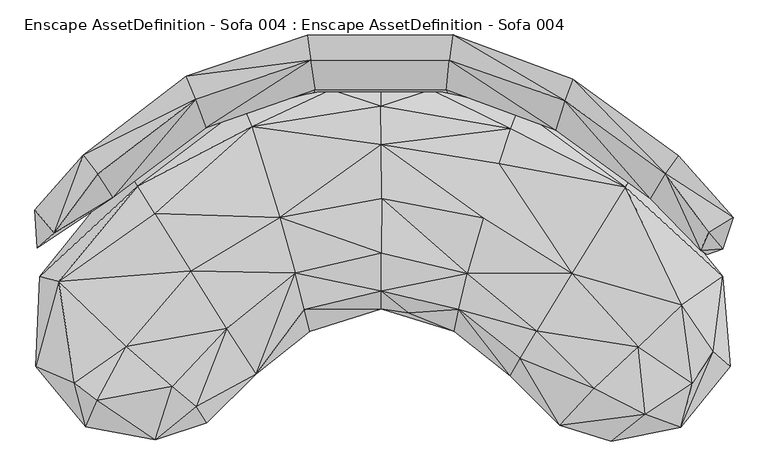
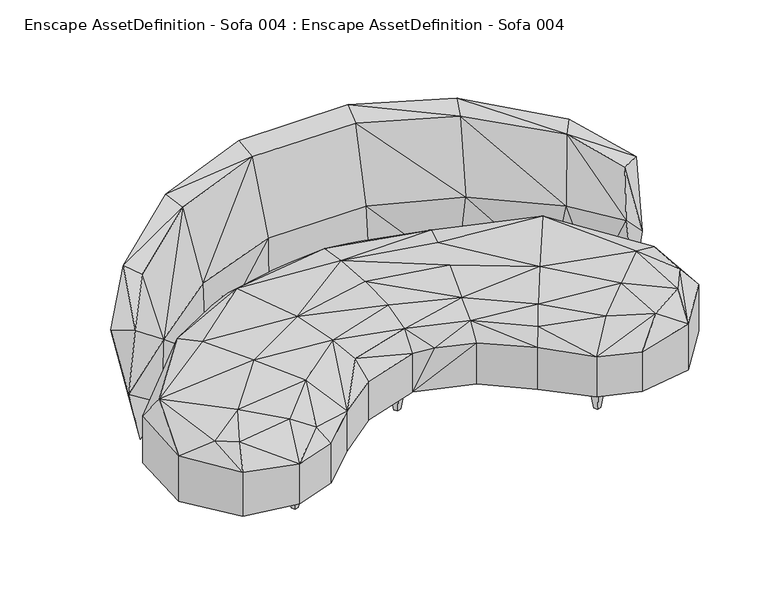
"""IFC4 building model written with IfcOpenShell, lengths in millimetres: geographic element geometry, Enscape AssetDefinition - Sofa 004 : Enscape AssetDefinition - Sofa 004."""

from ifc_helpers import new_model, si_unit, origin, place, context, project, spatial, triangles, source, transform, mapped, element, save


def enscape_assetdefinition_sofa_004_enscape_assetdefinition_8d7d073d(model_context):
    return source(origin(), model_context, "Body", "Tessellation", [
        triangles([(1386.6883232, -667.9079235, 179.7981641), (-968.3206913, 49.6201544, 524.8154222), (-1374.4681389, -667.2996758, 186.9336298), (-1358.715612, -309.2258926, 179.6881236), (-1011.790785, 120.3305912, 181.7218294), (-201.7897724, 432.7765998, 181.0505768), (197.3752344, 434.1540956, 180.9275647), (-1358.715612, -309.2258926, 445.0858775), (-1174.884173, -908.0008993, 427.4917843), (-1374.4681389, -667.2996758, 443.6573673), (-1221.1161621, -733.7436579, 513.9336737), (-1174.884173, -908.0008993, 178.2476229), (-1129.4363657, -803.1666006, 518.1661188), (-900.0071285, -960.2339029, 184.5077785), (-736.2554958, -826.6767935, 479.4837416), (-900.0071285, -960.2339029, 409.9507038), (-498.0091733, -698.1323141, 182.6401418), (-693.4716974, -892.4695072, 410.3598722), (-693.4716974, -892.4695072, 188.6932425), (-831.7365137, -747.3774187, 509.2631012), (-758.545269, -288.2366396, 536.5934824), (-1015.0870228, -587.8582675, 530.1942727), (-614.055324, -517.3989055, 511.3777977), (-284.6934148, -528.0915668, 395.7788218), (-498.0091733, -698.1323141, 407.1147577), (-343.0696117, -295.7142355, 507.5804641), (-284.6934148, -528.0915668, 180.314339), (-306.6360071, -440.7323642, 478.6304506), (0.4041397, -438.4535789, 398.1376167), (-0.2700934, -366.777794, 494.6650097), (109.3307993, -454.7412111, 400.0372828), (0.4041397, -438.4535789, 181.051576), (289.4010489, -527.9614875, 410.6699913), (289.4010489, -527.9614875, 179.2789734), (342.3633685, -297.2167783, 508.8268996), (307.341233, -441.2845834, 478.5634126), (511.6088519, -705.7059071, 415.2215667), (511.6088519, -705.7059071, 178.1826014), (914.7081934, -965.2216072, 183.8855782), (709.5142502, -901.9777931, 187.2017093), (1048.7976105, -858.6438103, 511.6429341), (709.5142502, -901.9777931, 410.2568261), (552.5120602, -636.9051647, 476.424735), (846.8147358, -755.1350847, 504.5434402), (914.7081934, -965.2216072, 407.2127895), (1190.7036289, -911.2409632, 177.0412103), (1236.0623428, -735.3591843, 512.2020933), (1190.7036289, -911.2409632, 434.4752243), (1320.6326168, -607.7011333, 513.7196242), (1021.360041, -590.7692453, 529.8101755), (617.254402, -527.6754584, 513.2884369), (1195.3912788, -423.9355697, 546.4419002), (1386.6883232, -667.9079235, 438.5896171), (1357.487344, -310.3312757, 186.9726535), (1357.487344, -310.3312757, 447.9798869), (1012.9681841, 116.6253123, 445.6560825), (1012.9681841, 116.6253123, 181.7688287), (544.0410293, 359.0731407, 183.3213684), (544.0410293, 359.0731407, 407.7449882), (197.3752344, 434.1540956, 426.7565457), (-2.1997604, 438.4585567, 416.3529656), (-201.7897724, 432.7765998, 429.2313583), (-2.1997604, 438.4585567, 178.782801), (-548.256506, 367.721123, 424.0506063), (-515.3121506, 286.1339155, 504.1992751), (-2.4308405, 367.0289051, 499.4436788), (969.6252628, 45.1175995, 537.4277701), (511.9029837, 278.1281542, 479.8939273), (466.2962108, 139.9223641, 508.7718884), (-0.8402905, 215.6345487, 525.4997191), (0.6152127, -0.1840636, 536.2283521), (404.9479932, -78.2820586, 535.2229992), (757.9160196, -297.8909922, 537.6668544), (-0.1840636, -215.9756797, 534.8378846), (-900.3103077, -60.3708699, 551.7447742), (-404.0486658, -74.6738168, 528.1605669), (-1283.7728027, -330.7753404, 527.5043933), (-548.256506, 367.721123, 177.9535275), (257.9271707, 434.0210732, 607.4609591), (267.0813176, 411.2341647, 175.2775825), (664.1136057, 300.33383, 174.4372995), (1038.2089399, 75.2630159, 174.9044585), (693.1255703, 272.462221, 602.9004453), (1069.5557911, 0.8452922, 586.3237318), (1173.4737213, -76.958602, 177.8865076), (588.2513394, 389.523644, 174.8464315), (225.4059181, 475.9004937, 175.1725562), (1038.9501738, 144.5729705, 172.5726604), (1076.1590218, 153.3920361, 320.7028447), (1237.6888424, -15.5813868, 355.6649549), (1269.2717983, -206.4383622, 560.55779), (1357.2841587, -200.9784847, 467.9317941), (1296.5002235, -223.3292098, 180.0032207), (1158.2513947, 181.6898183, 752.3420866), (1180.076952, 170.9590961, 933.7788317), (761.298226, 474.9261709, 1012.3930012), (1129.6634594, 100.2446533, 909.3403524), (1301.4427998, -136.0150263, 808.5345142), (1398.6044563, -76.2783655, 795.878092), (759.8826874, 467.3345558, 802.9305685), (269.6242401, 551.7657394, 999.2364641), (729.9553717, 389.2786008, 976.4986078), (284.3112978, 651.5762169, 1035.7210831), (-776.3044321, 487.2224407, 1006.0418627), (-294.3367397, 650.2527512, 1038.9611469), (320.4327667, 631.0991964, 813.1981831), (-326.5468921, 631.3642965, 817.2474998), (-252.5853274, 547.5103306, 327.9643564), (-638.7608654, 438.0334373, 322.7175837), (249.5242679, 548.7506982, 324.5312084), (-592.9020003, 394.7364799, 173.608026), (634.4603285, 430.3387762, 323.8999606), (-271.740935, 411.6092872, 177.8904862), (-229.8074481, 475.6063983, 178.14058), (-1039.9764919, 141.9850925, 174.4243097), (-1068.3243256, 3.52922, 582.1962948), (-668.1639399, 304.1661361, 171.5573154), (-1038.7810707, 72.649113, 173.2668949), (-1267.0469341, -128.31536, 170.8850817), (-1367.6758209, -196.5839673, 501.0942321), (-1075.6488058, 154.7134852, 324.6142339), (-1159.3598299, 180.0702587, 760.472913), (-1377.6313179, -46.0679275, 773.7765341), (-769.304932, 474.9231915, 801.1739897), (-1304.3689293, -118.7220411, 344.7251793), (-738.4972921, 396.3200315, 974.7239342), (-1185.7409231, 172.5296579, 937.7301893), (-1300.2835682, -137.0173724, 800.3986736), (-1128.4641867, 96.7524428, 912.6045427), (-281.564318, 550.8534405, 1002.9997519), (-696.7658278, 282.9768408, 599.891363), (-263.8121857, 433.715932, 610.3229937), (756.6646425, -735.952462, 182.524106), (797.3276402, -759.9657492, 0.0), (786.4979233, -741.2112253, 0.0), (803.087681, -727.2904181, 0.0), (786.9650459, -788.4345783, 182.524106), (843.911788, -767.7054657, 182.524106), (803.087681, -696.996991, 182.524106), (817.6766888, -752.5601692, 0.0), (1207.2603945, -372.4077192, 0.0), (1190.6706367, -386.3285628, 0.0), (1160.8372833, -381.0667474, 182.524106), (1191.1377594, -433.5488637, 182.524106), (1207.2603945, -342.1122574, 182.524106), (1248.0844288, -412.8227305, 182.524106), (1221.8483849, -397.6744546, 0.0), (1201.4993362, -405.083014, 0.0), (-46.4230476, -288.0955872, 182.524106), (-16.589735, -293.3544232, 0.0), (-5.7609912, -312.1108546, 0.0), (0.0, -249.1401343, 182.524106), (0.0, -279.4335796, 0.0), (40.8241115, -319.8515885, 182.524106), (-16.1225726, -340.577758, 182.524106), (14.5880426, -304.7033489, 0.0), (0.0, 353.4021569, 182.524106), (-16.589735, 309.1878862, 0.0), (-46.4230476, 314.449738, 182.524106), (40.8241115, 282.6937185, 182.524106), (-16.1225726, 261.9675672, 182.524106), (0.0, 323.1086935, 0.0), (14.5880426, 297.8389605, 0.0), (-5.7609912, 290.4343979, 0.0), (-819.675404, -741.2122427, 0.0), (-808.8485939, -759.9657492, 0.0), (-803.0856462, -727.2904181, 0.0), (-849.5106468, -735.952462, 182.524106), (-803.0856462, -696.996991, 182.524106), (-762.2615393, -767.7054657, 182.524106), (-788.4975832, -752.5601692, 0.0), (-819.2082087, -788.4345783, 182.524106), (-1207.2533455, -342.1122574, 182.5231068), (-1207.2533455, -372.4077192, 0.0), (-1213.0143311, -405.083014, 0.0), (-1192.6653551, -397.675472, 0.0), (-1223.8440479, -386.3285628, 0.0), (-1253.676384, -381.0667474, 182.5231068), (-1166.4302559, -412.8227305, 182.5231068), (-1223.3769253, -433.5488637, 182.5231068)], [[180, 175, 176], [176, 179, 180], [179, 176, 174], [180, 179, 173], [174, 173, 179], [173, 178, 180], [175, 180, 178], [177, 174, 176], [176, 175, 177], [178, 177, 175], [173, 174, 177], [177, 178, 173], [172, 166, 171], [171, 170, 172], [170, 171, 167], [172, 170, 169], [167, 169, 170], [169, 168, 172], [166, 172, 168], [165, 167, 171], [171, 166, 165], [168, 165, 166], [169, 167, 165], [165, 168, 169], [161, 164, 163], [163, 160, 161], [160, 163, 162], [161, 160, 157], [162, 157, 160], [157, 159, 161], [164, 161, 159], [158, 162, 163], [163, 164, 158], [159, 158, 164], [157, 162, 158], [158, 159, 157], [155, 151, 156], [156, 154, 155], [154, 156, 153], [155, 154, 152], [153, 152, 154], [152, 149, 155], [151, 155, 149], [150, 153, 156], [156, 151, 150], [149, 150, 151], [152, 153, 150], [150, 149, 152], [144, 148, 147], [147, 146, 144], [146, 147, 141], [144, 146, 145], [141, 145, 146], [145, 143, 144], [148, 144, 143], [142, 141, 147], [147, 148, 142], [143, 142, 148], [145, 141, 142], [142, 143, 145], [137, 134, 140], [140, 138, 137], [138, 140, 136], [137, 138, 139], [136, 139, 138], [139, 133, 137], [134, 137, 133], [135, 136, 140], [140, 134, 135], [133, 135, 134], [139, 136, 135], [135, 133, 139], [131, 132, 130], [116, 129, 128], [130, 126, 131], [126, 129, 116], [116, 131, 126], [104, 126, 130], [128, 129, 127], [127, 129, 126], [126, 104, 127], [127, 123, 128], [128, 123, 120], [128, 120, 116], [123, 125, 120], [124, 122, 104], [123, 127, 122], [104, 122, 127], [123, 122, 125], [109, 122, 124], [122, 121, 125], [122, 109, 121], [119, 125, 121], [120, 125, 119], [118, 116, 120], [120, 119, 118], [119, 115, 118], [115, 121, 109], [121, 115, 119], [117, 118, 115], [132, 131, 117], [116, 118, 117], [117, 131, 116], [117, 113, 132], [115, 111, 117], [113, 117, 111], [109, 111, 115], [111, 114, 113], [113, 114, 87], [87, 110, 112], [110, 87, 114], [100, 112, 110], [108, 114, 111], [114, 108, 110], [111, 109, 108], [104, 107, 124], [107, 108, 109], [109, 124, 107], [110, 106, 100], [106, 110, 108], [108, 107, 106], [130, 105, 104], [106, 107, 105], [104, 105, 107], [105, 130, 101], [101, 130, 132], [101, 103, 105], [105, 103, 106], [103, 100, 106], [103, 101, 102], [102, 96, 103], [96, 100, 103], [96, 102, 97], [97, 95, 96], [84, 97, 102], [97, 84, 91], [91, 98, 97], [93, 92, 91], [98, 91, 92], [92, 99, 98], [97, 98, 99], [99, 95, 97], [95, 94, 96], [99, 94, 95], [96, 94, 100], [112, 100, 94], [94, 89, 112], [90, 92, 93], [90, 89, 94], [99, 92, 90], [94, 99, 90], [85, 93, 91], [93, 85, 90], [85, 91, 84], [88, 89, 90], [90, 85, 88], [89, 88, 86], [112, 86, 87], [86, 112, 89], [85, 82, 88], [86, 88, 82], [84, 82, 85], [83, 102, 101], [102, 83, 84], [82, 84, 83], [82, 81, 86], [87, 86, 81], [83, 81, 82], [81, 80, 87], [87, 80, 113], [81, 83, 79], [101, 79, 83], [79, 80, 81], [132, 79, 101], [113, 80, 79], [79, 132, 113], [2, 65, 64], [2, 64, 78], [8, 77, 2], [77, 22, 21], [65, 2, 75], [75, 2, 77], [21, 75, 77], [75, 21, 76], [26, 76, 21], [76, 65, 75], [76, 26, 74], [74, 71, 76], [71, 74, 35], [35, 51, 73], [35, 72, 71], [73, 72, 35], [70, 71, 72], [76, 71, 70], [70, 65, 76], [69, 72, 73], [72, 69, 70], [73, 67, 69], [70, 69, 68], [67, 68, 69], [68, 66, 70], [70, 66, 65], [62, 64, 65], [65, 66, 62], [64, 62, 6], [6, 78, 64], [63, 6, 62], [62, 61, 63], [61, 62, 66], [66, 60, 61], [60, 66, 68], [68, 59, 60], [59, 68, 67], [60, 59, 58], [6, 63, 7], [61, 60, 7], [7, 63, 61], [58, 7, 60], [57, 58, 59], [7, 58, 57], [67, 56, 59], [59, 56, 57], [54, 57, 56], [57, 54, 1], [7, 57, 1], [55, 56, 67], [1, 54, 55], [56, 55, 54], [46, 1, 53], [55, 53, 1], [49, 53, 55], [49, 55, 52], [52, 55, 67], [52, 67, 73], [50, 73, 51], [73, 50, 52], [52, 47, 49], [47, 52, 50], [48, 53, 49], [49, 47, 48], [53, 48, 46], [1, 46, 39], [39, 46, 48], [40, 39, 45], [48, 45, 39], [45, 48, 41], [48, 47, 41], [41, 47, 50], [50, 44, 41], [51, 44, 50], [44, 51, 43], [42, 45, 41], [41, 44, 42], [42, 44, 43], [45, 42, 40], [39, 40, 38], [38, 40, 42], [1, 39, 38], [1, 38, 34], [43, 37, 42], [42, 37, 38], [34, 38, 37], [37, 43, 36], [51, 35, 36], [36, 43, 51], [36, 33, 37], [37, 33, 34], [32, 34, 33], [31, 33, 36], [33, 31, 32], [35, 74, 30], [30, 74, 26], [36, 30, 31], [30, 36, 35], [26, 28, 30], [31, 29, 32], [29, 31, 30], [29, 30, 28], [27, 32, 29], [28, 24, 29], [29, 24, 27], [17, 27, 24], [25, 24, 28], [25, 28, 26], [24, 25, 17], [19, 17, 25], [21, 23, 26], [23, 21, 22], [26, 23, 25], [22, 20, 23], [23, 20, 15], [15, 25, 23], [15, 18, 25], [25, 18, 19], [17, 19, 14], [14, 19, 18], [27, 17, 14], [14, 12, 3], [16, 15, 20], [18, 16, 14], [18, 15, 16], [12, 14, 16], [20, 13, 16], [20, 22, 13], [22, 77, 11], [11, 13, 22], [13, 9, 16], [9, 13, 11], [16, 9, 12], [3, 12, 9], [77, 8, 10], [10, 11, 77], [11, 10, 9], [9, 10, 3], [4, 3, 10], [10, 8, 4], [5, 6, 7], [5, 34, 32], [3, 4, 5], [5, 78, 6], [78, 5, 2], [32, 27, 5], [5, 4, 8], [8, 2, 5], [14, 3, 5], [27, 14, 5], [5, 1, 34], [5, 7, 1]]),
    ])


if __name__ == "__main__":
    model = new_model("IFC4")
    model_context = context("Model", 3, world=origin())
    ifc_project = project(units=[si_unit("LENGTHUNIT", "METRE", prefix="MILLI")], contexts=[model_context])
    site = spatial("IfcSite", under=ifc_project)
    building = spatial("IfcBuilding", under=site)
    placement = place(None, origin())
    enscape_assetdefinition_sofa_004_enscape_assetdefinition_shape = enscape_assetdefinition_sofa_004_enscape_assetdefinition_8d7d073d(model_context)
    element("IfcGeographicElement", 1, ObjectType="Enscape AssetDefinition - Sofa 004 : Enscape AssetDefinition - Sofa 004", at=placement, inside=building, context=model_context, shape_type="MappedRepresentation", body=[
        mapped(enscape_assetdefinition_sofa_004_enscape_assetdefinition_shape, transform((0.0, 0.0, 0.0), x_axis=(1.0, 0.0, 0.0), y_axis=(0.0, 1.0, 0.0), z_axis=(0.0, 0.0, 1.0))),
    ])
    save(model, "model.ifc")
